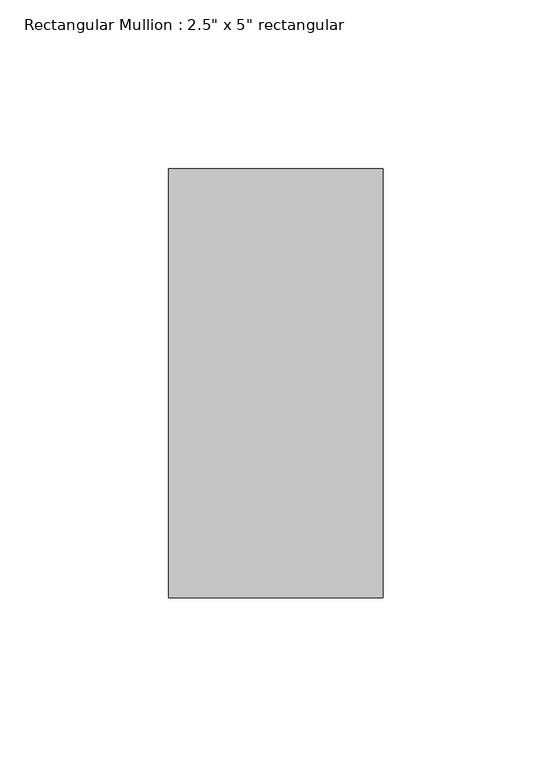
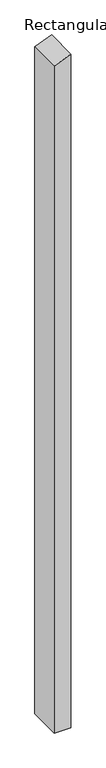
"""IFC4 building model written with IfcOpenShell, lengths in millimetres: member geometry."""

from ifc_helpers import new_model, si_unit, frame, origin, place, context, project, spatial, polyline, outline, extrude, source, transform, mapped, element, save


def member_226e994b(model_context):
    return source(origin(), model_context, "Body", "SweptSolid", [
        extrude(outline(polyline([(0.0, 0.0), (-26.3025612, -63.5), (-2711.4500001, -63.5), (-2711.4500001, 0.0), (0.0, 0.0)])), frame((0.0, -63.5, 0.0), z_axis=(0.0, 1.0, 0.0), x_axis=(0.0, 0.0, 1.0)), (0.0, 0.0, 1.0), 127.0),
    ])


if __name__ == "__main__":
    model = new_model("IFC4")
    model_context = context("Model", 3, world=origin())
    ifc_project = project(units=[si_unit("LENGTHUNIT", "METRE", prefix="MILLI")], contexts=[model_context])
    site = spatial("IfcSite", under=ifc_project)
    building = spatial("IfcBuilding", under=site)
    placement = place(None, origin())
    member_shape = member_226e994b(model_context)
    element("IfcMember", 1, ObjectType="Rectangular Mullion : 2.5\" x 5\" rectangular", at=placement, inside=building, context=model_context, shape_type="MappedRepresentation", body=[
        mapped(member_shape, transform((0.0, 0.0, 0.0), x_axis=(1.0, 0.0, 0.0), y_axis=(0.0, 1.0, 0.0), z_axis=(0.0, 0.0, 1.0))),
    ])
    save(model, "model.ifc")
